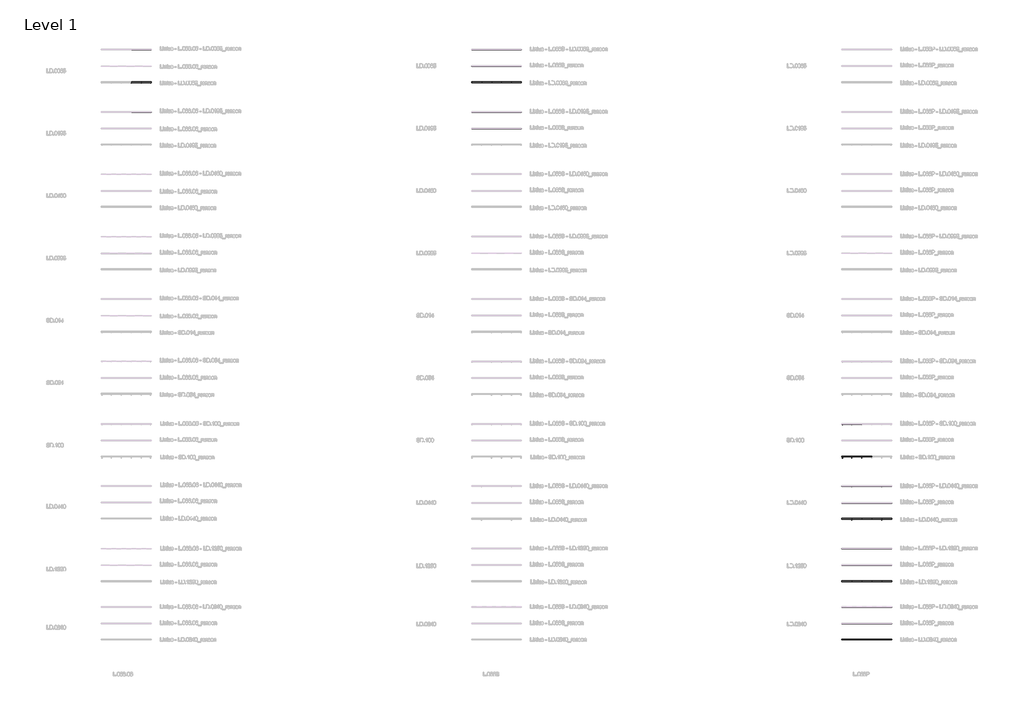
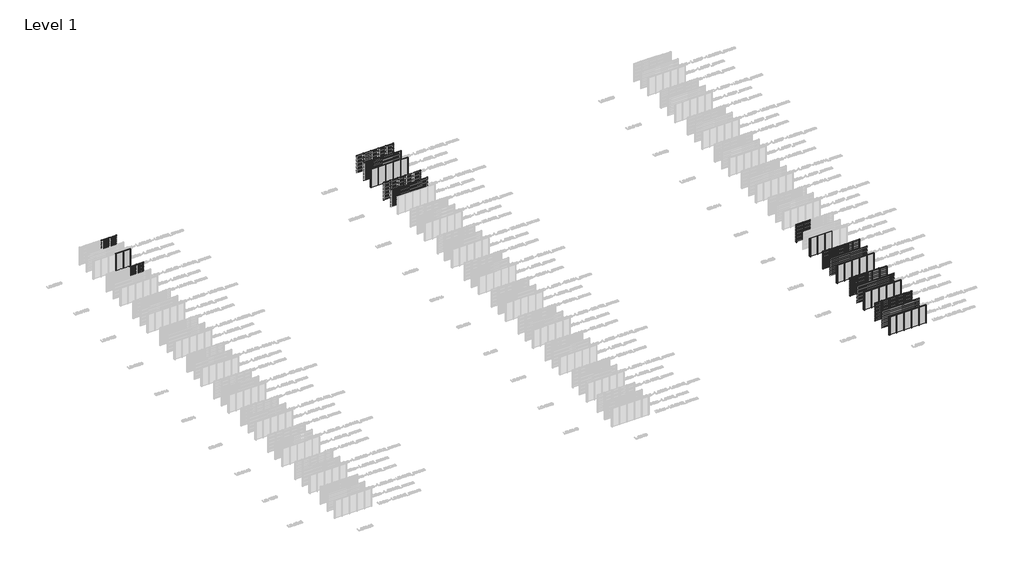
# One storey, part 6 of 540: 67 members, 61 plates.
"""IFC4 building model written with IfcOpenShell, lengths in millimetres."""

from ifc_helpers import new_model, si_unit, origin, origin_with_axes, place, context, project, spatial, polyline, outline, extrude, transform, mapped, element, save
from components import rectangular_mullion_42be434b, rectangular_mullion_e1f482b2, rectangular_mullion_8b77bd57, rectangular_mullion_2c867e25, rectangular_mullion_7803f5c4, rectangular_mullion_82152e2f, rectangular_mullion_ffdfeaf4, rectangular_mullion_e0a14876, rectangular_mullion_146f339b, rectangular_mullion_aa1047c5, rectangular_mullion_6132f1f1, rectangular_mullion_5b30f3fd, rectangular_mullion_5e0e8e0a, rectangular_mullion_d2d38772, rectangular_mullion_efb80f74, rectangular_mullion_aaa1fb1b, rectangular_mullion_ea9d012c, empty_system_panel_empty_aabbdda4

model = new_model("IFC4")

# Units and contexts
model_context = context("Model", 3, world=origin())
ifc_project = project(units=[si_unit("LENGTHUNIT", "METRE", prefix="MILLI")], contexts=[model_context])

# Site, building, storey
site = spatial("IfcSite", under=ifc_project)
building = spatial("IfcBuilding", under=site)
storey = spatial("IfcBuildingStorey", under=building, Name="Level 1", Elevation=0.0)

# Members
placement = place(None, origin())
rectangular_mullion_shape = rectangular_mullion_42be434b(model_context)
element("IfcMember", 1, ObjectType="Rectangular Mullion : LD.0065_renson", at=placement, inside=storey, context=model_context, shape_type="MappedRepresentation", body=[
    mapped(rectangular_mullion_shape, transform((49766.6208097, 73981.0540136, 0.0), x_axis=(-1.0, 0.0, 0.0), y_axis=(0.0, 1.0, 0.0), z_axis=(0.0, 0.0, -1.0))),
])
element("IfcMember", 2, ObjectType="Rectangular Mullion : LD.0065_renson", at=placement, inside=storey, context=model_context, shape_type="MappedRepresentation", body=[
    mapped(rectangular_mullion_shape, transform((48566.6208097, 73981.0540136, 0.0), x_axis=(-1.0, 0.0, 0.0), y_axis=(0.0, 1.0, 0.0), z_axis=(0.0, 0.0, -1.0))),
])
element("IfcMember", 3, ObjectType="Rectangular Mullion : LD.0065_renson", at=placement, inside=storey, context=model_context, shape_type="MappedRepresentation", body=[
    mapped(rectangular_mullion_shape, transform((49766.6208097, 69981.0540136, 0.0), x_axis=(-1.0, 0.0, 0.0), y_axis=(0.0, 1.0, 0.0), z_axis=(0.0, 0.0, -1.0))),
])
element("IfcMember", 4, ObjectType="Rectangular Mullion : LD.0065_renson", at=placement, inside=storey, context=model_context, shape_type="MappedRepresentation", body=[
    mapped(rectangular_mullion_shape, transform((48566.6208097, 69981.0540136, 0.0), x_axis=(-1.0, 0.0, 0.0), y_axis=(0.0, 1.0, 0.0), z_axis=(0.0, 0.0, -1.0))),
])
element("IfcMember", 5, ObjectType="Rectangular Mullion : LD.0065_renson", at=placement, inside=storey, context=model_context, shape_type="MappedRepresentation", body=[
    mapped(rectangular_mullion_shape, transform((93066.6208096, 73983.0540136, 0.0), x_axis=(-1.0, 0.0, 0.0), y_axis=(0.0, 1.0, 0.0), z_axis=(0.0, 0.0, -1.0))),
])
element("IfcMember", 6, ObjectType="Rectangular Mullion : LD.0065_renson", at=placement, inside=storey, context=model_context, shape_type="MappedRepresentation", body=[
    mapped(rectangular_mullion_shape, transform((91866.6208097, 73983.0540136, 0.0), x_axis=(-1.0, 0.0, 0.0), y_axis=(0.0, 1.0, 0.0), z_axis=(0.0, 0.0, -1.0))),
])
element("IfcMember", 7, ObjectType="Rectangular Mullion : LD.0065_renson", at=placement, inside=storey, context=model_context, shape_type="MappedRepresentation", body=[
    mapped(rectangular_mullion_shape, transform((90666.6208099, 73983.0540136, 0.0), x_axis=(-1.0, 0.0, 0.0), y_axis=(0.0, 1.0, 0.0), z_axis=(0.0, 0.0, -1.0))),
])
element("IfcMember", 8, ObjectType="Rectangular Mullion : LD.0065_renson", at=placement, inside=storey, context=model_context, shape_type="MappedRepresentation", body=[
    mapped(rectangular_mullion_shape, transform((94266.6208095, 69983.0540136, 0.0), x_axis=(-1.0, 0.0, 0.0), y_axis=(0.0, 1.0, 0.0), z_axis=(0.0, 0.0, -1.0))),
])
element("IfcMember", 9, ObjectType="Rectangular Mullion : LD.0065_renson", at=placement, inside=storey, context=model_context, shape_type="MappedRepresentation", body=[
    mapped(rectangular_mullion_shape, transform((93066.6208096, 69983.0540136, 0.0), x_axis=(-1.0, 0.0, 0.0), y_axis=(0.0, 1.0, 0.0), z_axis=(0.0, 0.0, -1.0))),
])
element("IfcMember", 10, ObjectType="Rectangular Mullion : LD.0065_renson", at=placement, inside=storey, context=model_context, shape_type="MappedRepresentation", body=[
    mapped(rectangular_mullion_shape, transform((91866.6208097, 69983.0540136, 0.0), x_axis=(-1.0, 0.0, 0.0), y_axis=(0.0, 1.0, 0.0), z_axis=(0.0, 0.0, -1.0))),
])
element("IfcMember", 11, ObjectType="Rectangular Mullion : LD.0065_renson", at=placement, inside=storey, context=model_context, shape_type="MappedRepresentation", body=[
    mapped(rectangular_mullion_shape, transform((90666.6208099, 69983.0540136, 0.0), x_axis=(-1.0, 0.0, 0.0), y_axis=(0.0, 1.0, 0.0), z_axis=(0.0, 0.0, -1.0))),
])
element("IfcMember", 12, ObjectType="Rectangular Mullion : LD.0065_renson", at=placement, inside=storey, context=model_context, shape_type="MappedRepresentation", body=[
    mapped(rectangular_mullion_shape, transform((94266.6208095, 73983.0540136, 0.0), x_axis=(-1.0, 0.0, 0.0), y_axis=(0.0, 1.0, 0.0), z_axis=(0.0, 0.0, -1.0))),
])
rectangular_mullion_2_shape = rectangular_mullion_e1f482b2(model_context)
element("IfcMember", 13, ObjectType="Rectangular Mullion : LD.0195_renson", at=placement, inside=storey, context=model_context, shape_type="MappedRepresentation", body=[
    mapped(rectangular_mullion_2_shape, transform((49766.6208097, 66481.0540136, 0.0), x_axis=(-1.0, 0.0, 0.0), y_axis=(0.0, 1.0, 0.0), z_axis=(0.0, 0.0, -1.0))),
])
element("IfcMember", 14, ObjectType="Rectangular Mullion : LD.0195_renson", at=placement, inside=storey, context=model_context, shape_type="MappedRepresentation", body=[
    mapped(rectangular_mullion_2_shape, transform((93066.6208096, 66483.0540136, 0.0), x_axis=(-1.0, 0.0, 0.0), y_axis=(0.0, 1.0, 0.0), z_axis=(0.0, 0.0, -1.0))),
])
element("IfcMember", 15, ObjectType="Rectangular Mullion : LD.0195_renson", at=placement, inside=storey, context=model_context, shape_type="MappedRepresentation", body=[
    mapped(rectangular_mullion_2_shape, transform((91866.6208097, 66483.0540136, 0.0), x_axis=(-1.0, 0.0, 0.0), y_axis=(0.0, 1.0, 0.0), z_axis=(0.0, 0.0, -1.0))),
])
element("IfcMember", 16, ObjectType="Rectangular Mullion : LD.0195_renson", at=placement, inside=storey, context=model_context, shape_type="MappedRepresentation", body=[
    mapped(rectangular_mullion_2_shape, transform((90666.6208099, 66483.0540136, 0.0), x_axis=(-1.0, 0.0, 0.0), y_axis=(0.0, 1.0, 0.0), z_axis=(0.0, 0.0, -1.0))),
])
element("IfcMember", 17, ObjectType="Rectangular Mullion : LD.0195_renson", at=placement, inside=storey, context=model_context, shape_type="MappedRepresentation", body=[
    mapped(rectangular_mullion_2_shape, transform((94266.6208095, 66483.0540136, 0.0), x_axis=(-1.0, 0.0, 0.0), y_axis=(0.0, 1.0, 0.0), z_axis=(0.0, 0.0, -1.0))),
])
rectangular_mullion_3_shape = rectangular_mullion_8b77bd57(model_context)
element("IfcMember", 18, ObjectType="Rectangular Mullion : SD.100_renson", at=placement, inside=storey, context=model_context, shape_type="MappedRepresentation", body=[
    mapped(rectangular_mullion_3_shape, transform((135166.6208099, 28983.0540136, 0.0), x_axis=(-1.0, 0.0, 0.0), y_axis=(0.0, 1.0, 0.0), z_axis=(0.0, 0.0, -1.0))),
])
element("IfcMember", 19, ObjectType="Rectangular Mullion : SD.100_renson", at=placement, inside=storey, context=model_context, shape_type="MappedRepresentation", body=[
    mapped(rectangular_mullion_3_shape, transform((136366.6208097, 24983.0540136, 0.0), x_axis=(-1.0, 0.0, 0.0), y_axis=(0.0, 1.0, 0.0), z_axis=(0.0, 0.0, -1.0))),
])
element("IfcMember", 20, ObjectType="Rectangular Mullion : SD.100_renson", at=placement, inside=storey, context=model_context, shape_type="MappedRepresentation", body=[
    mapped(rectangular_mullion_3_shape, transform((135166.6208099, 24983.0540136, 0.0), x_axis=(-1.0, 0.0, 0.0), y_axis=(0.0, 1.0, 0.0), z_axis=(0.0, 0.0, -1.0))),
])
rectangular_mullion_4_shape = rectangular_mullion_2c867e25(model_context)
element("IfcMember", 21, ObjectType="Rectangular Mullion : LD.0440_renson", at=placement, inside=storey, context=model_context, shape_type="MappedRepresentation", body=[
    mapped(rectangular_mullion_4_shape, transform((138766.6208095, 21483.0540136, 0.0), x_axis=(-1.0, 0.0, 0.0), y_axis=(0.0, 1.0, 0.0), z_axis=(0.0, 0.0, -1.0))),
])
element("IfcMember", 22, ObjectType="Rectangular Mullion : LD.0440_renson", at=placement, inside=storey, context=model_context, shape_type="MappedRepresentation", body=[
    mapped(rectangular_mullion_4_shape, transform((137566.6208096, 21483.0540136, 0.0), x_axis=(-1.0, 0.0, 0.0), y_axis=(0.0, 1.0, 0.0), z_axis=(0.0, 0.0, -1.0))),
])
element("IfcMember", 23, ObjectType="Rectangular Mullion : LD.0440_renson", at=placement, inside=storey, context=model_context, shape_type="MappedRepresentation", body=[
    mapped(rectangular_mullion_4_shape, transform((136366.6208097, 21483.0540136, 0.0), x_axis=(-1.0, 0.0, 0.0), y_axis=(0.0, 1.0, 0.0), z_axis=(0.0, 0.0, -1.0))),
])
element("IfcMember", 24, ObjectType="Rectangular Mullion : LD.0440_renson", at=placement, inside=storey, context=model_context, shape_type="MappedRepresentation", body=[
    mapped(rectangular_mullion_4_shape, transform((135166.6208099, 21483.0540136, 0.0), x_axis=(-1.0, 0.0, 0.0), y_axis=(0.0, 1.0, 0.0), z_axis=(0.0, 0.0, -1.0))),
])
element("IfcMember", 25, ObjectType="Rectangular Mullion : LD.0440_renson", at=placement, inside=storey, context=model_context, shape_type="MappedRepresentation", body=[
    mapped(rectangular_mullion_4_shape, transform((138766.6208095, 17483.0540136, 0.0), x_axis=(-1.0, 0.0, 0.0), y_axis=(0.0, 1.0, 0.0), z_axis=(0.0, 0.0, -1.0))),
])
element("IfcMember", 26, ObjectType="Rectangular Mullion : LD.0440_renson", at=placement, inside=storey, context=model_context, shape_type="MappedRepresentation", body=[
    mapped(rectangular_mullion_4_shape, transform((137566.6208096, 17483.0540136, 0.0), x_axis=(-1.0, 0.0, 0.0), y_axis=(0.0, 1.0, 0.0), z_axis=(0.0, 0.0, -1.0))),
])
element("IfcMember", 27, ObjectType="Rectangular Mullion : LD.0440_renson", at=placement, inside=storey, context=model_context, shape_type="MappedRepresentation", body=[
    mapped(rectangular_mullion_4_shape, transform((136366.6208097, 17483.0540136, 0.0), x_axis=(-1.0, 0.0, 0.0), y_axis=(0.0, 1.0, 0.0), z_axis=(0.0, 0.0, -1.0))),
])
element("IfcMember", 28, ObjectType="Rectangular Mullion : LD.0440_renson", at=placement, inside=storey, context=model_context, shape_type="MappedRepresentation", body=[
    mapped(rectangular_mullion_4_shape, transform((135166.6208099, 17483.0540136, 0.0), x_axis=(-1.0, 0.0, 0.0), y_axis=(0.0, 1.0, 0.0), z_axis=(0.0, 0.0, -1.0))),
])
rectangular_mullion_5_shape = rectangular_mullion_7803f5c4(model_context)
element("IfcMember", 29, ObjectType="Rectangular Mullion : LD.1250_renson", at=placement, inside=storey, context=model_context, shape_type="MappedRepresentation", body=[
    mapped(rectangular_mullion_5_shape, transform((138766.6208095, 13983.0540136, 0.0), x_axis=(-1.0, 0.0, 0.0), y_axis=(0.0, 1.0, 0.0), z_axis=(0.0, 0.0, -1.0))),
])
element("IfcMember", 30, ObjectType="Rectangular Mullion : LD.1250_renson", at=placement, inside=storey, context=model_context, shape_type="MappedRepresentation", body=[
    mapped(rectangular_mullion_5_shape, transform((137566.6208096, 13983.0540136, 0.0), x_axis=(-1.0, 0.0, 0.0), y_axis=(0.0, 1.0, 0.0), z_axis=(0.0, 0.0, -1.0))),
])
element("IfcMember", 31, ObjectType="Rectangular Mullion : LD.1250_renson", at=placement, inside=storey, context=model_context, shape_type="MappedRepresentation", body=[
    mapped(rectangular_mullion_5_shape, transform((136366.6208097, 13983.0540136, 0.0), x_axis=(-1.0, 0.0, 0.0), y_axis=(0.0, 1.0, 0.0), z_axis=(0.0, 0.0, -1.0))),
])
element("IfcMember", 32, ObjectType="Rectangular Mullion : LD.1250_renson", at=placement, inside=storey, context=model_context, shape_type="MappedRepresentation", body=[
    mapped(rectangular_mullion_5_shape, transform((135166.6208099, 13983.0540136, 0.0), x_axis=(-1.0, 0.0, 0.0), y_axis=(0.0, 1.0, 0.0), z_axis=(0.0, 0.0, -1.0))),
])
element("IfcMember", 33, ObjectType="Rectangular Mullion : LD.1250_renson", at=placement, inside=storey, context=model_context, shape_type="MappedRepresentation", body=[
    mapped(rectangular_mullion_5_shape, transform((138766.6208095, 9983.0540136, 0.0), x_axis=(-1.0, 0.0, 0.0), y_axis=(0.0, 1.0, 0.0), z_axis=(0.0, 0.0, -1.0))),
])
element("IfcMember", 34, ObjectType="Rectangular Mullion : LD.1250_renson", at=placement, inside=storey, context=model_context, shape_type="MappedRepresentation", body=[
    mapped(rectangular_mullion_5_shape, transform((137566.6208096, 9983.0540136, 0.0), x_axis=(-1.0, 0.0, 0.0), y_axis=(0.0, 1.0, 0.0), z_axis=(0.0, 0.0, -1.0))),
])
element("IfcMember", 35, ObjectType="Rectangular Mullion : LD.1250_renson", at=placement, inside=storey, context=model_context, shape_type="MappedRepresentation", body=[
    mapped(rectangular_mullion_5_shape, transform((136366.6208097, 9983.0540136, 0.0), x_axis=(-1.0, 0.0, 0.0), y_axis=(0.0, 1.0, 0.0), z_axis=(0.0, 0.0, -1.0))),
])
element("IfcMember", 36, ObjectType="Rectangular Mullion : LD.1250_renson", at=placement, inside=storey, context=model_context, shape_type="MappedRepresentation", body=[
    mapped(rectangular_mullion_5_shape, transform((135166.6208099, 9983.0540136, 0.0), x_axis=(-1.0, 0.0, 0.0), y_axis=(0.0, 1.0, 0.0), z_axis=(0.0, 0.0, -1.0))),
])
rectangular_mullion_6_shape = rectangular_mullion_82152e2f(model_context)
element("IfcMember", 37, ObjectType="Rectangular Mullion : LD.0240_renson", at=placement, inside=storey, context=model_context, shape_type="MappedRepresentation", body=[
    mapped(rectangular_mullion_6_shape, transform((138766.6208095, 6987.0270068, 0.0), x_axis=(-1.0, 0.0, 0.0), y_axis=(0.0, 1.0, 0.0), z_axis=(0.0, 0.0, -1.0))),
])
element("IfcMember", 38, ObjectType="Rectangular Mullion : LD.0240_renson", at=placement, inside=storey, context=model_context, shape_type="MappedRepresentation", body=[
    mapped(rectangular_mullion_6_shape, transform((137566.6208096, 6987.0270068, 0.0), x_axis=(-1.0, 0.0, 0.0), y_axis=(0.0, 1.0, 0.0), z_axis=(0.0, 0.0, -1.0))),
])
element("IfcMember", 39, ObjectType="Rectangular Mullion : LD.0240_renson", at=placement, inside=storey, context=model_context, shape_type="MappedRepresentation", body=[
    mapped(rectangular_mullion_6_shape, transform((136366.6208097, 6987.0270068, 0.0), x_axis=(-1.0, 0.0, 0.0), y_axis=(0.0, 1.0, 0.0), z_axis=(0.0, 0.0, -1.0))),
])
element("IfcMember", 40, ObjectType="Rectangular Mullion : LD.0240_renson", at=placement, inside=storey, context=model_context, shape_type="MappedRepresentation", body=[
    mapped(rectangular_mullion_6_shape, transform((135166.6208099, 6987.0270068, 0.0), x_axis=(-1.0, 0.0, 0.0), y_axis=(0.0, 1.0, 0.0), z_axis=(0.0, 0.0, -1.0))),
])
element("IfcMember", 41, ObjectType="Rectangular Mullion : LD.0240_renson", at=placement, inside=storey, context=model_context, shape_type="MappedRepresentation", body=[
    mapped(rectangular_mullion_6_shape, transform((138766.6208095, 2987.0270068, 0.0), x_axis=(-1.0, 0.0, 0.0), y_axis=(0.0, 1.0, 0.0), z_axis=(0.0, 0.0, -1.0))),
])
element("IfcMember", 42, ObjectType="Rectangular Mullion : LD.0240_renson", at=placement, inside=storey, context=model_context, shape_type="MappedRepresentation", body=[
    mapped(rectangular_mullion_6_shape, transform((137566.6208096, 2987.0270068, 0.0), x_axis=(-1.0, 0.0, 0.0), y_axis=(0.0, 1.0, 0.0), z_axis=(0.0, 0.0, -1.0))),
])
element("IfcMember", 43, ObjectType="Rectangular Mullion : LD.0240_renson", at=placement, inside=storey, context=model_context, shape_type="MappedRepresentation", body=[
    mapped(rectangular_mullion_6_shape, transform((136366.6208097, 2987.0270068, 0.0), x_axis=(-1.0, 0.0, 0.0), y_axis=(0.0, 1.0, 0.0), z_axis=(0.0, 0.0, -1.0))),
])
element("IfcMember", 44, ObjectType="Rectangular Mullion : LD.0240_renson", at=placement, inside=storey, context=model_context, shape_type="MappedRepresentation", body=[
    mapped(rectangular_mullion_6_shape, transform((135166.6208099, 2987.0270068, 0.0), x_axis=(-1.0, 0.0, 0.0), y_axis=(0.0, 1.0, 0.0), z_axis=(0.0, 0.0, -1.0))),
])
rectangular_mullion_7_shape = rectangular_mullion_ffdfeaf4(model_context)
element("IfcMember", 45, ObjectType="Rectangular Mullion : LD.0065 - left_renson", at=placement, inside=storey, context=model_context, shape_type="MappedRepresentation", body=[
    mapped(rectangular_mullion_7_shape, transform((89466.6208097, 73983.0540136, 0.0), x_axis=(-1.0, 0.0, 0.0), y_axis=(0.0, 1.0, 0.0), z_axis=(0.0, 0.0, -1.0))),
])
element("IfcMember", 46, ObjectType="Rectangular Mullion : LD.0065 - left_renson", at=placement, inside=storey, context=model_context, shape_type="MappedRepresentation", body=[
    mapped(rectangular_mullion_7_shape, transform((89466.6208097, 69983.0540136, 0.0), x_axis=(-1.0, 0.0, 0.0), y_axis=(0.0, 1.0, 0.0), z_axis=(0.0, 0.0, -1.0))),
])
rectangular_mullion_8_shape = rectangular_mullion_e0a14876(model_context)
element("IfcMember", 47, ObjectType="Rectangular Mullion : LD.0065 - right_renson", at=placement, inside=storey, context=model_context, shape_type="MappedRepresentation", body=[
    mapped(rectangular_mullion_8_shape, transform((50966.6208097, 73981.0540136, 3000.0), x_axis=(1.0, 0.0, 0.0), y_axis=(0.0, 1.0, 0.0), z_axis=(0.0, 0.0, 1.0))),
])
element("IfcMember", 48, ObjectType="Rectangular Mullion : LD.0065 - right_renson", at=placement, inside=storey, context=model_context, shape_type="MappedRepresentation", body=[
    mapped(rectangular_mullion_8_shape, transform((50966.6208097, 69981.0540136, 3000.0), x_axis=(1.0, 0.0, 0.0), y_axis=(0.0, 1.0, 0.0), z_axis=(0.0, 0.0, 1.0))),
])
element("IfcMember", 49, ObjectType="Rectangular Mullion : LD.0065 - right_renson", at=placement, inside=storey, context=model_context, shape_type="MappedRepresentation", body=[
    mapped(rectangular_mullion_8_shape, transform((95466.6208097, 73983.0540136, 3000.0), x_axis=(1.0, 0.0, 0.0), y_axis=(0.0, 1.0, 0.0), z_axis=(0.0, 0.0, 1.0))),
])
element("IfcMember", 50, ObjectType="Rectangular Mullion : LD.0065 - right_renson", at=placement, inside=storey, context=model_context, shape_type="MappedRepresentation", body=[
    mapped(rectangular_mullion_8_shape, transform((95466.6208097, 69983.0540136, 3000.0), x_axis=(1.0, 0.0, 0.0), y_axis=(0.0, 1.0, 0.0), z_axis=(0.0, 0.0, 1.0))),
])
rectangular_mullion_9_shape = rectangular_mullion_146f339b(model_context)
element("IfcMember", 51, ObjectType="Rectangular Mullion : LD.0195 - left_renson", at=placement, inside=storey, context=model_context, shape_type="MappedRepresentation", body=[
    mapped(rectangular_mullion_9_shape, transform((89466.6208097, 66483.0540136, 0.0), x_axis=(-1.0, 0.0, 0.0), y_axis=(0.0, 1.0, 0.0), z_axis=(0.0, 0.0, -1.0))),
])
rectangular_mullion_10_shape = rectangular_mullion_aa1047c5(model_context)
element("IfcMember", 52, ObjectType="Rectangular Mullion : LD.0195 - right_renson", at=placement, inside=storey, context=model_context, shape_type="MappedRepresentation", body=[
    mapped(rectangular_mullion_10_shape, transform((50966.6208097, 66481.0540136, 3000.0), x_axis=(1.0, 0.0, 0.0), y_axis=(0.0, 1.0, 0.0), z_axis=(0.0, 0.0, 1.0))),
])
element("IfcMember", 53, ObjectType="Rectangular Mullion : LD.0195 - right_renson", at=placement, inside=storey, context=model_context, shape_type="MappedRepresentation", body=[
    mapped(rectangular_mullion_10_shape, transform((95466.6208097, 66483.0540136, 3000.0), x_axis=(1.0, 0.0, 0.0), y_axis=(0.0, 1.0, 0.0), z_axis=(0.0, 0.0, 1.0))),
])
rectangular_mullion_11_shape = rectangular_mullion_6132f1f1(model_context)
element("IfcMember", 54, ObjectType="Rectangular Mullion : SD.100 - left_renson", at=placement, inside=storey, context=model_context, shape_type="MappedRepresentation", body=[
    mapped(rectangular_mullion_11_shape, transform((133966.6208097, 28983.0540136, 0.0), x_axis=(-1.0, 0.0, 0.0), y_axis=(0.0, 1.0, 0.0), z_axis=(0.0, 0.0, -1.0))),
])
element("IfcMember", 55, ObjectType="Rectangular Mullion : SD.100 - left_renson", at=placement, inside=storey, context=model_context, shape_type="MappedRepresentation", body=[
    mapped(rectangular_mullion_11_shape, transform((133966.6208097, 24983.0540136, 0.0), x_axis=(-1.0, 0.0, 0.0), y_axis=(0.0, 1.0, 0.0), z_axis=(0.0, 0.0, -1.0))),
])
rectangular_mullion_12_shape = rectangular_mullion_5b30f3fd(model_context)
element("IfcMember", 56, ObjectType="Rectangular Mullion : LD.0440 - left_renson", at=placement, inside=storey, context=model_context, shape_type="MappedRepresentation", body=[
    mapped(rectangular_mullion_12_shape, transform((133966.6208097, 21483.0540136, 0.0), x_axis=(-1.0, 0.0, 0.0), y_axis=(0.0, 1.0, 0.0), z_axis=(0.0, 0.0, -1.0))),
])
element("IfcMember", 57, ObjectType="Rectangular Mullion : LD.0440 - left_renson", at=placement, inside=storey, context=model_context, shape_type="MappedRepresentation", body=[
    mapped(rectangular_mullion_12_shape, transform((133966.6208097, 17483.0540136, 0.0), x_axis=(-1.0, 0.0, 0.0), y_axis=(0.0, 1.0, 0.0), z_axis=(0.0, 0.0, -1.0))),
])
rectangular_mullion_13_shape = rectangular_mullion_5e0e8e0a(model_context)
element("IfcMember", 58, ObjectType="Rectangular Mullion : LD.0440 - right_renson", at=placement, inside=storey, context=model_context, shape_type="MappedRepresentation", body=[
    mapped(rectangular_mullion_13_shape, transform((139966.6208097, 21483.0540136, 3000.0), x_axis=(1.0, 0.0, 0.0), y_axis=(0.0, 1.0, 0.0), z_axis=(0.0, 0.0, 1.0))),
])
element("IfcMember", 59, ObjectType="Rectangular Mullion : LD.0440 - right_renson", at=placement, inside=storey, context=model_context, shape_type="MappedRepresentation", body=[
    mapped(rectangular_mullion_13_shape, transform((139966.6208097, 17483.0540136, 3000.0), x_axis=(1.0, 0.0, 0.0), y_axis=(0.0, 1.0, 0.0), z_axis=(0.0, 0.0, 1.0))),
])
rectangular_mullion_14_shape = rectangular_mullion_d2d38772(model_context)
element("IfcMember", 60, ObjectType="Rectangular Mullion : LD.1250 - left_renson", at=placement, inside=storey, context=model_context, shape_type="MappedRepresentation", body=[
    mapped(rectangular_mullion_14_shape, transform((133966.6208097, 13983.0540136, 0.0), x_axis=(-1.0, 0.0, 0.0), y_axis=(0.0, 1.0, 0.0), z_axis=(0.0, 0.0, -1.0))),
])
element("IfcMember", 61, ObjectType="Rectangular Mullion : LD.1250 - left_renson", at=placement, inside=storey, context=model_context, shape_type="MappedRepresentation", body=[
    mapped(rectangular_mullion_14_shape, transform((133966.6208097, 9983.0540136, 0.0), x_axis=(-1.0, 0.0, 0.0), y_axis=(0.0, 1.0, 0.0), z_axis=(0.0, 0.0, -1.0))),
])
rectangular_mullion_15_shape = rectangular_mullion_efb80f74(model_context)
element("IfcMember", 62, ObjectType="Rectangular Mullion : LD.1250 - right_renson", at=placement, inside=storey, context=model_context, shape_type="MappedRepresentation", body=[
    mapped(rectangular_mullion_15_shape, transform((139966.6208097, 13983.0540136, 3000.0), x_axis=(1.0, 0.0, 0.0), y_axis=(0.0, 1.0, 0.0), z_axis=(0.0, 0.0, 1.0))),
])
element("IfcMember", 63, ObjectType="Rectangular Mullion : LD.1250 - right_renson", at=placement, inside=storey, context=model_context, shape_type="MappedRepresentation", body=[
    mapped(rectangular_mullion_15_shape, transform((139966.6208097, 9983.0540136, 3000.0), x_axis=(1.0, 0.0, 0.0), y_axis=(0.0, 1.0, 0.0), z_axis=(0.0, 0.0, 1.0))),
])
rectangular_mullion_16_shape = rectangular_mullion_aaa1fb1b(model_context)
element("IfcMember", 64, ObjectType="Rectangular Mullion : LD.0240 - left_renson", at=placement, inside=storey, context=model_context, shape_type="MappedRepresentation", body=[
    mapped(rectangular_mullion_16_shape, transform((133966.6208097, 6987.0270068, 0.0), x_axis=(-1.0, 0.0, 0.0), y_axis=(0.0, 1.0, 0.0), z_axis=(0.0, 0.0, -1.0))),
])
element("IfcMember", 65, ObjectType="Rectangular Mullion : LD.0240 - left_renson", at=placement, inside=storey, context=model_context, shape_type="MappedRepresentation", body=[
    mapped(rectangular_mullion_16_shape, transform((133966.6208097, 2987.0270068, 0.0), x_axis=(-1.0, 0.0, 0.0), y_axis=(0.0, 1.0, 0.0), z_axis=(0.0, 0.0, -1.0))),
])
rectangular_mullion_17_shape = rectangular_mullion_ea9d012c(model_context)
element("IfcMember", 66, ObjectType="Rectangular Mullion : LD.0240 - right_renson", at=placement, inside=storey, context=model_context, shape_type="MappedRepresentation", body=[
    mapped(rectangular_mullion_17_shape, transform((139966.6208097, 6987.0270068, 3000.0), x_axis=(1.0, 0.0, 0.0), y_axis=(0.0, 1.0, 0.0), z_axis=(0.0, 0.0, 1.0))),
])
element("IfcMember", 67, ObjectType="Rectangular Mullion : LD.0240 - right_renson", at=placement, inside=storey, context=model_context, shape_type="MappedRepresentation", body=[
    mapped(rectangular_mullion_17_shape, transform((139966.6208097, 2987.0270068, 3000.0), x_axis=(1.0, 0.0, 0.0), y_axis=(0.0, 1.0, 0.0), z_axis=(0.0, 0.0, 1.0))),
])

# Plates
element("IfcPlate", 68, ObjectType="Linius - L.066.06_renson", at=placement, inside=storey, context=model_context, shape_type="SweptSolid", body=[
    extrude(outline(polyline([(48566.6208097, 73982.0540136), (49766.6208097, 73982.0540136), (49766.6208097, 73980.0540136), (48566.6208097, 73980.0540136), (48566.6208097, 73982.0540136)])), origin_with_axes(), (0.0, 0.0, 1.0), 3000.0),
])
element("IfcPlate", 69, ObjectType="Linius - L.066.06_renson", at=placement, inside=storey, context=model_context, shape_type="SweptSolid", body=[
    extrude(outline(polyline([(49766.6208097, 73982.0540136), (50966.6208097, 73982.0540136), (50966.6208097, 73980.0540136), (49766.6208097, 73980.0540136), (49766.6208097, 73982.0540136)])), origin_with_axes(), (0.0, 0.0, 1.0), 3000.0),
])
element("IfcPlate", 70, ObjectType="Linius - L.066.06_renson", at=placement, inside=storey, context=model_context, shape_type="SweptSolid", body=[
    extrude(outline(polyline([(48566.6208097, 66482.0540136), (49766.6208097, 66482.0540136), (49766.6208097, 66480.0540136), (48566.6208097, 66480.0540136), (48566.6208097, 66482.0540136)])), origin_with_axes(), (0.0, 0.0, 1.0), 3000.0),
])
element("IfcPlate", 71, ObjectType="Linius - L.066.06_renson", at=placement, inside=storey, context=model_context, shape_type="SweptSolid", body=[
    extrude(outline(polyline([(49766.6208097, 66482.0540136), (50966.6208097, 66482.0540136), (50966.6208097, 66480.0540136), (49766.6208097, 66480.0540136), (49766.6208097, 66482.0540136)])), origin_with_axes(), (0.0, 0.0, 1.0), 3000.0),
])
element("IfcPlate", 72, ObjectType="Linius - L.066S_renson", at=placement, inside=storey, context=model_context, shape_type="SweptSolid", body=[
    extrude(outline(polyline([(89466.6208097, 73984.0540136), (90666.6208099, 73984.0540136), (90666.6208099, 73982.0540136), (89466.6208097, 73982.0540136), (89466.6208097, 73984.0540136)])), origin_with_axes(), (0.0, 0.0, 1.0), 3000.0),
])
element("IfcPlate", 73, ObjectType="Linius - L.066S_renson", at=placement, inside=storey, context=model_context, shape_type="SweptSolid", body=[
    extrude(outline(polyline([(90666.6208099, 73984.0540136), (91866.6208097, 73984.0540136), (91866.6208097, 73982.0540136), (90666.6208099, 73982.0540136), (90666.6208099, 73984.0540136)])), origin_with_axes(), (0.0, 0.0, 1.0), 3000.0),
])
element("IfcPlate", 74, ObjectType="Linius - L.066S_renson", at=placement, inside=storey, context=model_context, shape_type="SweptSolid", body=[
    extrude(outline(polyline([(91866.6208097, 73984.0540136), (93066.6208096, 73984.0540136), (93066.6208096, 73982.0540136), (91866.6208097, 73982.0540136), (91866.6208097, 73984.0540136)])), origin_with_axes(), (0.0, 0.0, 1.0), 3000.0),
])
element("IfcPlate", 75, ObjectType="Linius - L.066S_renson", at=placement, inside=storey, context=model_context, shape_type="SweptSolid", body=[
    extrude(outline(polyline([(94266.6208095, 73984.0540136), (95466.6208097, 73984.0540136), (95466.6208097, 73982.0540136), (94266.6208095, 73982.0540136), (94266.6208095, 73984.0540136)])), origin_with_axes(), (0.0, 0.0, 1.0), 3000.0),
])
element("IfcPlate", 76, ObjectType="Linius - L.066S_renson", at=placement, inside=storey, context=model_context, shape_type="SweptSolid", body=[
    extrude(outline(polyline([(89466.6208097, 71984.0540136), (95466.6208097, 71984.0540136), (95466.6208097, 71982.0540136), (89466.6208097, 71982.0540136), (89466.6208097, 71984.0540136)])), origin_with_axes(), (0.0, 0.0, 1.0), 3000.0),
])
element("IfcPlate", 77, ObjectType="Linius - L.066S_renson", at=placement, inside=storey, context=model_context, shape_type="SweptSolid", body=[
    extrude(outline(polyline([(89466.6208097, 66484.0540136), (90666.6208099, 66484.0540136), (90666.6208099, 66482.0540136), (89466.6208097, 66482.0540136), (89466.6208097, 66484.0540136)])), origin_with_axes(), (0.0, 0.0, 1.0), 3000.0),
])
element("IfcPlate", 78, ObjectType="Linius - L.066S_renson", at=placement, inside=storey, context=model_context, shape_type="SweptSolid", body=[
    extrude(outline(polyline([(90666.6208099, 66484.0540136), (91866.6208097, 66484.0540136), (91866.6208097, 66482.0540136), (90666.6208099, 66482.0540136), (90666.6208099, 66484.0540136)])), origin_with_axes(), (0.0, 0.0, 1.0), 3000.0),
])
element("IfcPlate", 79, ObjectType="Linius - L.066S_renson", at=placement, inside=storey, context=model_context, shape_type="SweptSolid", body=[
    extrude(outline(polyline([(91866.6208097, 66484.0540136), (93066.6208096, 66484.0540136), (93066.6208096, 66482.0540136), (91866.6208097, 66482.0540136), (91866.6208097, 66484.0540136)])), origin_with_axes(), (0.0, 0.0, 1.0), 3000.0),
])
element("IfcPlate", 80, ObjectType="Linius - L.066S_renson", at=placement, inside=storey, context=model_context, shape_type="SweptSolid", body=[
    extrude(outline(polyline([(94266.6208095, 66484.0540136), (95466.6208097, 66484.0540136), (95466.6208097, 66482.0540136), (94266.6208095, 66482.0540136), (94266.6208095, 66484.0540136)])), origin_with_axes(), (0.0, 0.0, 1.0), 3000.0),
])
element("IfcPlate", 81, ObjectType="Linius - L.066S_renson", at=placement, inside=storey, context=model_context, shape_type="SweptSolid", body=[
    extrude(outline(polyline([(89466.6208097, 64484.0540136), (95466.6208097, 64484.0540136), (95466.6208097, 64482.0540136), (89466.6208097, 64482.0540136), (89466.6208097, 64484.0540136)])), origin_with_axes(), (0.0, 0.0, 1.0), 3000.0),
])
element("IfcPlate", 82, ObjectType="Linius - L.066S_renson", at=placement, inside=storey, context=model_context, shape_type="SweptSolid", body=[
    extrude(outline(polyline([(93066.6208096, 73984.0540136), (94266.6208095, 73984.0540136), (94266.6208095, 73982.0540136), (93066.6208096, 73982.0540136), (93066.6208096, 73984.0540136)])), origin_with_axes(), (0.0, 0.0, 1.0), 3000.0),
])
element("IfcPlate", 83, ObjectType="Linius - L.066S_renson", at=placement, inside=storey, context=model_context, shape_type="SweptSolid", body=[
    extrude(outline(polyline([(93066.6208096, 66484.0540136), (94266.6208095, 66484.0540136), (94266.6208095, 66482.0540136), (93066.6208096, 66482.0540136), (93066.6208096, 66484.0540136)])), origin_with_axes(), (0.0, 0.0, 1.0), 3000.0),
])
element("IfcPlate", 84, ObjectType="Linius - L.066P_renson", at=placement, inside=storey, context=model_context, shape_type="SweptSolid", body=[
    extrude(outline(polyline([(133966.6208097, 28984.0540136), (135166.6208099, 28984.0540136), (135166.6208099, 28982.0540136), (133966.6208097, 28982.0540136), (133966.6208097, 28984.0540136)])), origin_with_axes(), (0.0, 0.0, 1.0), 3000.0),
])
element("IfcPlate", 85, ObjectType="Linius - L.066P_renson", at=placement, inside=storey, context=model_context, shape_type="SweptSolid", body=[
    extrude(outline(polyline([(135166.6208099, 28984.0540136), (136366.6208097, 28984.0540136), (136366.6208097, 28982.0540136), (135166.6208099, 28982.0540136), (135166.6208099, 28984.0540136)])), origin_with_axes(), (0.0, 0.0, 1.0), 3000.0),
])
element("IfcPlate", 86, ObjectType="Linius - L.066P_renson", at=placement, inside=storey, context=model_context, shape_type="SweptSolid", body=[
    extrude(outline(polyline([(133966.6208097, 21484.0540136), (135166.6208099, 21484.0540136), (135166.6208099, 21482.0540136), (133966.6208097, 21482.0540136), (133966.6208097, 21484.0540136)])), origin_with_axes(), (0.0, 0.0, 1.0), 3000.0),
])
element("IfcPlate", 87, ObjectType="Linius - L.066P_renson", at=placement, inside=storey, context=model_context, shape_type="SweptSolid", body=[
    extrude(outline(polyline([(135166.6208099, 21484.0540136), (136366.6208097, 21484.0540136), (136366.6208097, 21482.0540136), (135166.6208099, 21482.0540136), (135166.6208099, 21484.0540136)])), origin_with_axes(), (0.0, 0.0, 1.0), 3000.0),
])
element("IfcPlate", 88, ObjectType="Linius - L.066P_renson", at=placement, inside=storey, context=model_context, shape_type="SweptSolid", body=[
    extrude(outline(polyline([(136366.6208097, 21484.0540136), (137566.6208096, 21484.0540136), (137566.6208096, 21482.0540136), (136366.6208097, 21482.0540136), (136366.6208097, 21484.0540136)])), origin_with_axes(), (0.0, 0.0, 1.0), 3000.0),
])
element("IfcPlate", 89, ObjectType="Linius - L.066P_renson", at=placement, inside=storey, context=model_context, shape_type="SweptSolid", body=[
    extrude(outline(polyline([(137566.6208096, 21484.0540136), (138766.6208095, 21484.0540136), (138766.6208095, 21482.0540136), (137566.6208096, 21482.0540136), (137566.6208096, 21484.0540136)])), origin_with_axes(), (0.0, 0.0, 1.0), 3000.0),
])
element("IfcPlate", 90, ObjectType="Linius - L.066P_renson", at=placement, inside=storey, context=model_context, shape_type="SweptSolid", body=[
    extrude(outline(polyline([(133966.6208097, 19484.0540136), (139966.6208097, 19484.0540136), (139966.6208097, 19482.0540136), (133966.6208097, 19482.0540136), (133966.6208097, 19484.0540136)])), origin_with_axes(), (0.0, 0.0, 1.0), 3000.0),
])
element("IfcPlate", 91, ObjectType="Linius - L.066P_renson", at=placement, inside=storey, context=model_context, shape_type="SweptSolid", body=[
    extrude(outline(polyline([(133966.6208097, 13984.0540136), (135166.6208099, 13984.0540136), (135166.6208099, 13982.0540136), (133966.6208097, 13982.0540136), (133966.6208097, 13984.0540136)])), origin_with_axes(), (0.0, 0.0, 1.0), 3000.0),
])
element("IfcPlate", 92, ObjectType="Linius - L.066P_renson", at=placement, inside=storey, context=model_context, shape_type="SweptSolid", body=[
    extrude(outline(polyline([(135166.6208099, 13984.0540136), (136366.6208097, 13984.0540136), (136366.6208097, 13982.0540136), (135166.6208099, 13982.0540136), (135166.6208099, 13984.0540136)])), origin_with_axes(), (0.0, 0.0, 1.0), 3000.0),
])
element("IfcPlate", 93, ObjectType="Linius - L.066P_renson", at=placement, inside=storey, context=model_context, shape_type="SweptSolid", body=[
    extrude(outline(polyline([(136366.6208097, 13984.0540136), (137566.6208096, 13984.0540136), (137566.6208096, 13982.0540136), (136366.6208097, 13982.0540136), (136366.6208097, 13984.0540136)])), origin_with_axes(), (0.0, 0.0, 1.0), 3000.0),
])
element("IfcPlate", 94, ObjectType="Linius - L.066P_renson", at=placement, inside=storey, context=model_context, shape_type="SweptSolid", body=[
    extrude(outline(polyline([(137566.6208096, 13984.0540136), (138766.6208095, 13984.0540136), (138766.6208095, 13982.0540136), (137566.6208096, 13982.0540136), (137566.6208096, 13984.0540136)])), origin_with_axes(), (0.0, 0.0, 1.0), 3000.0),
])
element("IfcPlate", 95, ObjectType="Linius - L.066P_renson", at=placement, inside=storey, context=model_context, shape_type="SweptSolid", body=[
    extrude(outline(polyline([(133966.6208097, 11984.0540136), (139966.6208097, 11984.0540136), (139966.6208097, 11982.0540136), (133966.6208097, 11982.0540136), (133966.6208097, 11984.0540136)])), origin_with_axes(), (0.0, 0.0, 1.0), 3000.0),
])
element("IfcPlate", 96, ObjectType="Linius - L.066P_renson", at=placement, inside=storey, context=model_context, shape_type="SweptSolid", body=[
    extrude(outline(polyline([(133966.6208097, 6988.0270068), (135166.6208099, 6988.0270068), (135166.6208099, 6986.0270068), (133966.6208097, 6986.0270068), (133966.6208097, 6988.0270068)])), origin_with_axes(), (0.0, 0.0, 1.0), 3000.0),
])
element("IfcPlate", 97, ObjectType="Linius - L.066P_renson", at=placement, inside=storey, context=model_context, shape_type="SweptSolid", body=[
    extrude(outline(polyline([(135166.6208099, 6988.0270068), (136366.6208097, 6988.0270068), (136366.6208097, 6986.0270068), (135166.6208099, 6986.0270068), (135166.6208099, 6988.0270068)])), origin_with_axes(), (0.0, 0.0, 1.0), 3000.0),
])
element("IfcPlate", 98, ObjectType="Linius - L.066P_renson", at=placement, inside=storey, context=model_context, shape_type="SweptSolid", body=[
    extrude(outline(polyline([(136366.6208097, 6988.0270068), (137566.6208096, 6988.0270068), (137566.6208096, 6986.0270068), (136366.6208097, 6986.0270068), (136366.6208097, 6988.0270068)])), origin_with_axes(), (0.0, 0.0, 1.0), 3000.0),
])
element("IfcPlate", 99, ObjectType="Linius - L.066P_renson", at=placement, inside=storey, context=model_context, shape_type="SweptSolid", body=[
    extrude(outline(polyline([(137566.6208096, 6988.0270068), (138766.6208095, 6988.0270068), (138766.6208095, 6986.0270068), (137566.6208096, 6986.0270068), (137566.6208096, 6988.0270068)])), origin_with_axes(), (0.0, 0.0, 1.0), 3000.0),
])
element("IfcPlate", 100, ObjectType="Linius - L.066P_renson", at=placement, inside=storey, context=model_context, shape_type="SweptSolid", body=[
    extrude(outline(polyline([(133966.6208097, 4988.0270068), (139966.6208097, 4988.0270068), (139966.6208097, 4986.0270068), (133966.6208097, 4986.0270068), (133966.6208097, 4988.0270068)])), origin_with_axes(), (0.0, 0.0, 1.0), 3000.0),
])
element("IfcPlate", 101, ObjectType="Linius - L.066P_renson", at=placement, inside=storey, context=model_context, shape_type="SweptSolid", body=[
    extrude(outline(polyline([(138766.6208095, 6988.0270068), (139966.6208097, 6988.0270068), (139966.6208097, 6986.0270068), (138766.6208095, 6986.0270068), (138766.6208095, 6988.0270068)])), origin_with_axes(), (0.0, 0.0, 1.0), 3000.0),
])
element("IfcPlate", 102, ObjectType="Linius - L.066P_renson", at=placement, inside=storey, context=model_context, shape_type="SweptSolid", body=[
    extrude(outline(polyline([(138766.6208095, 21484.0540136), (139966.6208097, 21484.0540136), (139966.6208097, 21482.0540136), (138766.6208095, 21482.0540136), (138766.6208095, 21484.0540136)])), origin_with_axes(), (0.0, 0.0, 1.0), 3000.0),
])
element("IfcPlate", 103, ObjectType="Linius - L.066P_renson", at=placement, inside=storey, context=model_context, shape_type="SweptSolid", body=[
    extrude(outline(polyline([(138766.6208095, 13984.0540136), (139966.6208097, 13984.0540136), (139966.6208097, 13982.0540136), (138766.6208095, 13982.0540136), (138766.6208095, 13984.0540136)])), origin_with_axes(), (0.0, 0.0, 1.0), 3000.0),
])
empty_system_panel_empty_shape = empty_system_panel_empty_aabbdda4(model_context)
element("IfcPlate", 104, ObjectType="Empty System Panel : Empty", at=placement, inside=storey, context=model_context, shape_type="MappedRepresentation", body=[
    mapped(empty_system_panel_empty_shape, transform((50366.6208097, 69981.0540136, 0.0), x_axis=(-1.0, 0.0, 0.0), y_axis=(0.0, -1.0, 0.0), z_axis=(0.0, 0.0, 1.0))),
])
element("IfcPlate", 105, ObjectType="Empty System Panel : Empty", at=placement, inside=storey, context=model_context, shape_type="MappedRepresentation", body=[
    mapped(empty_system_panel_empty_shape, transform((49166.6208097, 69981.0540136, 0.0), x_axis=(-1.0, 0.0, 0.0), y_axis=(0.0, -1.0, 0.0), z_axis=(0.0, 0.0, 1.0))),
])
element("IfcPlate", 106, ObjectType="Empty System Panel : Empty", at=placement, inside=storey, context=model_context, shape_type="MappedRepresentation", body=[
    mapped(empty_system_panel_empty_shape, transform((94866.6208096, 69983.0540136, 0.0), x_axis=(-1.0, 0.0, 0.0), y_axis=(0.0, -1.0, 0.0), z_axis=(0.0, 0.0, 1.0))),
])
element("IfcPlate", 107, ObjectType="Empty System Panel : Empty", at=placement, inside=storey, context=model_context, shape_type="MappedRepresentation", body=[
    mapped(empty_system_panel_empty_shape, transform((93666.6208096, 69983.0540136, 0.0), x_axis=(-1.0, 0.0, 0.0), y_axis=(0.0, -1.0, 0.0), z_axis=(0.0, 0.0, 1.0))),
])
element("IfcPlate", 108, ObjectType="Empty System Panel : Empty", at=placement, inside=storey, context=model_context, shape_type="MappedRepresentation", body=[
    mapped(empty_system_panel_empty_shape, transform((92466.6208097, 69983.0540136, 0.0), x_axis=(-1.0, 0.0, 0.0), y_axis=(0.0, -1.0, 0.0), z_axis=(0.0, 0.0, 1.0))),
])
element("IfcPlate", 109, ObjectType="Empty System Panel : Empty", at=placement, inside=storey, context=model_context, shape_type="MappedRepresentation", body=[
    mapped(empty_system_panel_empty_shape, transform((91266.6208098, 69983.0540136, 0.0), x_axis=(-1.0, 0.0, 0.0), y_axis=(0.0, -1.0, 0.0), z_axis=(0.0, 0.0, 1.0))),
])
element("IfcPlate", 110, ObjectType="Empty System Panel : Empty", at=placement, inside=storey, context=model_context, shape_type="MappedRepresentation", body=[
    mapped(empty_system_panel_empty_shape, transform((90066.6208098, 69983.0540136, 0.0), x_axis=(-1.0, 0.0, 0.0), y_axis=(0.0, -1.0, 0.0), z_axis=(0.0, 0.0, 1.0))),
])
element("IfcPlate", 111, ObjectType="Empty System Panel : Empty", at=placement, inside=storey, context=model_context, shape_type="MappedRepresentation", body=[
    mapped(empty_system_panel_empty_shape, transform((139366.6208096, 17483.0540136, 0.0), x_axis=(-1.0, 0.0, 0.0), y_axis=(0.0, -1.0, 0.0), z_axis=(0.0, 0.0, 1.0))),
])
element("IfcPlate", 112, ObjectType="Empty System Panel : Empty", at=placement, inside=storey, context=model_context, shape_type="MappedRepresentation", body=[
    mapped(empty_system_panel_empty_shape, transform((139366.6208096, 9983.0540136, 0.0), x_axis=(-1.0, 0.0, 0.0), y_axis=(0.0, -1.0, 0.0), z_axis=(0.0, 0.0, 1.0))),
])
element("IfcPlate", 113, ObjectType="Empty System Panel : Empty", at=placement, inside=storey, context=model_context, shape_type="MappedRepresentation", body=[
    mapped(empty_system_panel_empty_shape, transform((139366.6208096, 2987.0270068, 0.0), x_axis=(-1.0, 0.0, 0.0), y_axis=(0.0, -1.0, 0.0), z_axis=(0.0, 0.0, 1.0))),
])
element("IfcPlate", 114, ObjectType="Empty System Panel : Empty", at=placement, inside=storey, context=model_context, shape_type="MappedRepresentation", body=[
    mapped(empty_system_panel_empty_shape, transform((136966.6208097, 24983.0540136, 0.0), x_axis=(-1.0, 0.0, 0.0), y_axis=(0.0, -1.0, 0.0), z_axis=(0.0, 0.0, 1.0))),
])
element("IfcPlate", 115, ObjectType="Empty System Panel : Empty", at=placement, inside=storey, context=model_context, shape_type="MappedRepresentation", body=[
    mapped(empty_system_panel_empty_shape, transform((135766.6208098, 24983.0540136, 0.0), x_axis=(-1.0, 0.0, 0.0), y_axis=(0.0, -1.0, 0.0), z_axis=(0.0, 0.0, 1.0))),
])
element("IfcPlate", 116, ObjectType="Empty System Panel : Empty", at=placement, inside=storey, context=model_context, shape_type="MappedRepresentation", body=[
    mapped(empty_system_panel_empty_shape, transform((134566.6208098, 24983.0540136, 0.0), x_axis=(-1.0, 0.0, 0.0), y_axis=(0.0, -1.0, 0.0), z_axis=(0.0, 0.0, 1.0))),
])
element("IfcPlate", 117, ObjectType="Empty System Panel : Empty", at=placement, inside=storey, context=model_context, shape_type="MappedRepresentation", body=[
    mapped(empty_system_panel_empty_shape, transform((138166.6208096, 17483.0540136, 0.0), x_axis=(-1.0, 0.0, 0.0), y_axis=(0.0, -1.0, 0.0), z_axis=(0.0, 0.0, 1.0))),
])
element("IfcPlate", 118, ObjectType="Empty System Panel : Empty", at=placement, inside=storey, context=model_context, shape_type="MappedRepresentation", body=[
    mapped(empty_system_panel_empty_shape, transform((136966.6208097, 17483.0540136, 0.0), x_axis=(-1.0, 0.0, 0.0), y_axis=(0.0, -1.0, 0.0), z_axis=(0.0, 0.0, 1.0))),
])
element("IfcPlate", 119, ObjectType="Empty System Panel : Empty", at=placement, inside=storey, context=model_context, shape_type="MappedRepresentation", body=[
    mapped(empty_system_panel_empty_shape, transform((135766.6208098, 17483.0540136, 0.0), x_axis=(-1.0, 0.0, 0.0), y_axis=(0.0, -1.0, 0.0), z_axis=(0.0, 0.0, 1.0))),
])
element("IfcPlate", 120, ObjectType="Empty System Panel : Empty", at=placement, inside=storey, context=model_context, shape_type="MappedRepresentation", body=[
    mapped(empty_system_panel_empty_shape, transform((134566.6208098, 17483.0540136, 0.0), x_axis=(-1.0, 0.0, 0.0), y_axis=(0.0, -1.0, 0.0), z_axis=(0.0, 0.0, 1.0))),
])
element("IfcPlate", 121, ObjectType="Empty System Panel : Empty", at=placement, inside=storey, context=model_context, shape_type="MappedRepresentation", body=[
    mapped(empty_system_panel_empty_shape, transform((138166.6208096, 9983.0540136, 0.0), x_axis=(-1.0, 0.0, 0.0), y_axis=(0.0, -1.0, 0.0), z_axis=(0.0, 0.0, 1.0))),
])
element("IfcPlate", 122, ObjectType="Empty System Panel : Empty", at=placement, inside=storey, context=model_context, shape_type="MappedRepresentation", body=[
    mapped(empty_system_panel_empty_shape, transform((136966.6208097, 9983.0540136, 0.0), x_axis=(-1.0, 0.0, 0.0), y_axis=(0.0, -1.0, 0.0), z_axis=(0.0, 0.0, 1.0))),
])
element("IfcPlate", 123, ObjectType="Empty System Panel : Empty", at=placement, inside=storey, context=model_context, shape_type="MappedRepresentation", body=[
    mapped(empty_system_panel_empty_shape, transform((135766.6208098, 9983.0540136, 0.0), x_axis=(-1.0, 0.0, 0.0), y_axis=(0.0, -1.0, 0.0), z_axis=(0.0, 0.0, 1.0))),
])
element("IfcPlate", 124, ObjectType="Empty System Panel : Empty", at=placement, inside=storey, context=model_context, shape_type="MappedRepresentation", body=[
    mapped(empty_system_panel_empty_shape, transform((134566.6208098, 9983.0540136, 0.0), x_axis=(-1.0, 0.0, 0.0), y_axis=(0.0, -1.0, 0.0), z_axis=(0.0, 0.0, 1.0))),
])
element("IfcPlate", 125, ObjectType="Empty System Panel : Empty", at=placement, inside=storey, context=model_context, shape_type="MappedRepresentation", body=[
    mapped(empty_system_panel_empty_shape, transform((138166.6208096, 2987.0270068, 0.0), x_axis=(-1.0, 0.0, 0.0), y_axis=(0.0, -1.0, 0.0), z_axis=(0.0, 0.0, 1.0))),
])
element("IfcPlate", 126, ObjectType="Empty System Panel : Empty", at=placement, inside=storey, context=model_context, shape_type="MappedRepresentation", body=[
    mapped(empty_system_panel_empty_shape, transform((136966.6208097, 2987.0270068, 0.0), x_axis=(-1.0, 0.0, 0.0), y_axis=(0.0, -1.0, 0.0), z_axis=(0.0, 0.0, 1.0))),
])
element("IfcPlate", 127, ObjectType="Empty System Panel : Empty", at=placement, inside=storey, context=model_context, shape_type="MappedRepresentation", body=[
    mapped(empty_system_panel_empty_shape, transform((135766.6208098, 2987.0270068, 0.0), x_axis=(-1.0, 0.0, 0.0), y_axis=(0.0, -1.0, 0.0), z_axis=(0.0, 0.0, 1.0))),
])
element("IfcPlate", 128, ObjectType="Empty System Panel : Empty", at=placement, inside=storey, context=model_context, shape_type="MappedRepresentation", body=[
    mapped(empty_system_panel_empty_shape, transform((134566.6208098, 2987.0270068, 0.0), x_axis=(-1.0, 0.0, 0.0), y_axis=(0.0, -1.0, 0.0), z_axis=(0.0, 0.0, 1.0))),
])

save(model, "model.ifc")
